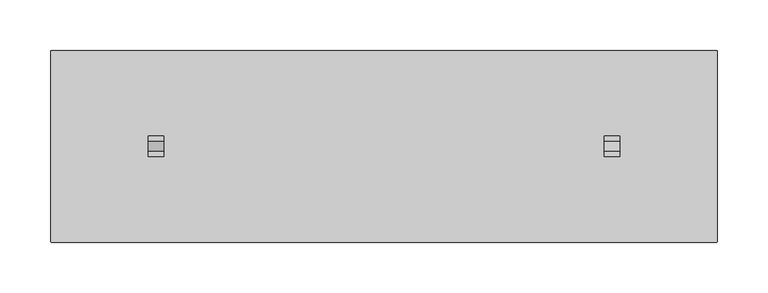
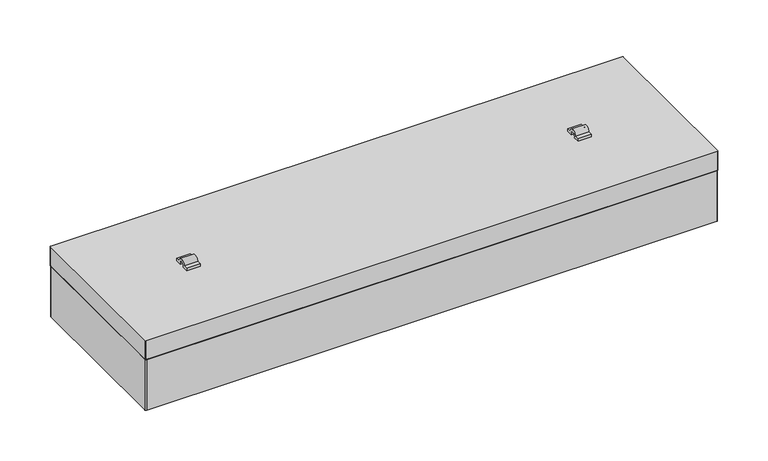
"""IFC4 building model written with IfcOpenShell, lengths in millimetres: light fixture geometry, ДПО46 Contur F : ДПО46-19-801."""

from ifc_helpers import new_model, si_unit, point, frame, frame_2d, origin, place, context, project, spatial, polyline, circle_curve, trimmed, segment, composite_curve, outline, extrude, source, transform, mapped, element, save


def light_fixture_827c025e(model_context):
    return source(origin(), model_context, "Body", "SweptSolid", [
        extrude(outline(composite_curve([segment(polyline([(-10.0, 3.0), (-5.0, 3.0)]), True, "CONTINUOUS"), segment(trimmed(circle_curve(frame_2d((0.0, 3.0)), 5.0), [point((-5.0, 3.0))], [point((5.0, 3.0))], False, "CARTESIAN"), True, "CONTINUOUS"), segment(polyline([(5.0, 3.0), (10.0, 3.0), (10.0, 0.0), (3.0, 0.0)]), True, "CONTINUOUS"), segment(trimmed(circle_curve(frame_2d((0.0, 1.4671776)), 3.3395524), [point((3.0, 0.0))], [point((-3.0, 0.0))], True, "CARTESIAN"), True, "CONTINUOUS"), segment(polyline([(-3.0, 0.0), (-10.0, 0.0), (-10.0, 3.0)]), True, "CONTINUOUS")], self_intersect=False)), frame((-233.1421762, 0.0, 0.0), z_axis=(1.0, 0.0, 0.0), x_axis=(0.0, 1.0, 0.0)), (0.0, 0.0, 1.0), 15.4101384),
        extrude(outline(composite_curve([segment(polyline([(-10.0, 3.0), (-5.0, 3.0)]), True, "CONTINUOUS"), segment(trimmed(circle_curve(frame_2d((0.0, 3.0)), 5.0), [point((-5.0, 3.0))], [point((5.0, 3.0))], False, "CARTESIAN"), True, "CONTINUOUS"), segment(polyline([(5.0, 3.0), (10.0, 3.0), (10.0, 0.0), (3.0, 0.0)]), True, "CONTINUOUS"), segment(trimmed(circle_curve(frame_2d((0.0, 1.4671776)), 3.3395524), [point((3.0, 0.0))], [point((-3.0, 0.0))], True, "CARTESIAN"), True, "CONTINUOUS"), segment(polyline([(-3.0, 0.0), (-10.0, 0.0), (-10.0, 3.0)]), True, "CONTINUOUS")], self_intersect=False)), frame((217.7320377, 0.0, 0.0), z_axis=(1.0, 0.0, 0.0), x_axis=(0.0, 1.0, 0.0)), (0.0, 0.0, 1.0), 15.4101384),
        extrude(outline(composite_curve([segment(trimmed(circle_curve(frame_2d((328.5, 93.5)), 1.5), [point((328.5, 95.0))], [point((330.0, 93.5))], False, "CARTESIAN"), True, "CONTINUOUS"), segment(polyline([(330.0, 93.5), (330.0, -93.5)]), True, "CONTINUOUS"), segment(trimmed(circle_curve(frame_2d((328.5, -93.5)), 1.5), [point((330.0, -93.5))], [point((328.5, -95.0))], False, "CARTESIAN"), True, "CONTINUOUS"), segment(polyline([(328.5, -95.0), (-328.5, -95.0)]), True, "CONTINUOUS"), segment(trimmed(circle_curve(frame_2d((-328.5, -93.5)), 1.5), [point((-328.5, -95.0))], [point((-330.0, -93.5))], False, "CARTESIAN"), True, "CONTINUOUS"), segment(polyline([(-330.0, -93.5), (-330.0, 93.5)]), True, "CONTINUOUS"), segment(trimmed(circle_curve(frame_2d((-328.5, 93.5)), 1.5), [point((-330.0, 93.5))], [point((-328.5, 95.0))], False, "CARTESIAN"), True, "CONTINUOUS"), segment(polyline([(-328.5, 95.0), (328.5, 95.0)]), True, "CONTINUOUS")], self_intersect=False)), frame((0.0, 0.0, -85.0), z_axis=(0.0, 0.0, 1.0), x_axis=(1.0, 0.0, 0.0)), (0.0, 0.0, 1.0), 61.6947106),
        extrude(outline(composite_curve([segment(trimmed(circle_curve(frame_2d((329.2504542, 94.2504542)), 0.7495458), [point((329.2504542, 95.0))], [point((330.0, 94.2504542))], False, "CARTESIAN"), True, "CONTINUOUS"), segment(polyline([(330.0, 94.2504542), (330.0, -94.3331699)]), True, "CONTINUOUS"), segment(trimmed(circle_curve(frame_2d((329.3331699, -94.3331699)), 0.6668301), [point((330.0, -94.3331699))], [point((329.3331699, -95.0))], False, "CARTESIAN"), True, "CONTINUOUS"), segment(polyline([(329.3331699, -95.0), (-329.3035332, -95.0)]), True, "CONTINUOUS"), segment(trimmed(circle_curve(frame_2d((-329.3035332, -94.3035332)), 0.6964668), [point((-329.3035332, -95.0))], [point((-330.0, -94.3035332))], False, "CARTESIAN"), True, "CONTINUOUS"), segment(polyline([(-330.0, -94.3035332), (-330.0, 94.3113008)]), True, "CONTINUOUS"), segment(trimmed(circle_curve(frame_2d((-329.3113008, 94.3113008)), 0.6886992), [point((-330.0, 94.3113008))], [point((-329.3113008, 95.0))], False, "CARTESIAN"), True, "CONTINUOUS"), segment(polyline([(-329.3113008, 95.0), (329.2504542, 95.0)]), True, "CONTINUOUS")], self_intersect=False)), frame((0.0, 0.0, -23.3052894), z_axis=(0.0, 0.0, 1.0), x_axis=(1.0, 0.0, 0.0)), (0.0, 0.0, 1.0), 23.3052894),
        extrude(outline(polyline([(330.0, 5.7115124), (330.0, -5.8702471), (320.1820926, -5.8702471), (320.1820926, 5.7115124), (330.0, 5.7115124)])), frame((0.0, 0.0, -17.8855767), z_axis=(0.0, 0.0, 1.0), x_axis=(1.0, 0.0, 0.0)), (0.0, 0.0, 1.0), 11.6787364),
    ])


if __name__ == "__main__":
    model = new_model("IFC4")
    model_context = context("Model", 3, world=origin())
    ifc_project = project(units=[si_unit("LENGTHUNIT", "METRE", prefix="MILLI")], contexts=[model_context])
    site = spatial("IfcSite", under=ifc_project)
    building = spatial("IfcBuilding", under=site)
    placement = place(None, origin())
    light_fixture_shape = light_fixture_827c025e(model_context)
    element("IfcLightFixture", 1, ObjectType="ДПО46 Contur F : ДПО46-19-801", at=placement, inside=building, context=model_context, shape_type="MappedRepresentation", body=[
        mapped(light_fixture_shape, transform((0.0, 0.0, 0.0), x_axis=(1.0, 0.0, 0.0), y_axis=(0.0, 1.0, 0.0), z_axis=(0.0, 0.0, 1.0))),
    ])
    save(model, "model.ifc")
